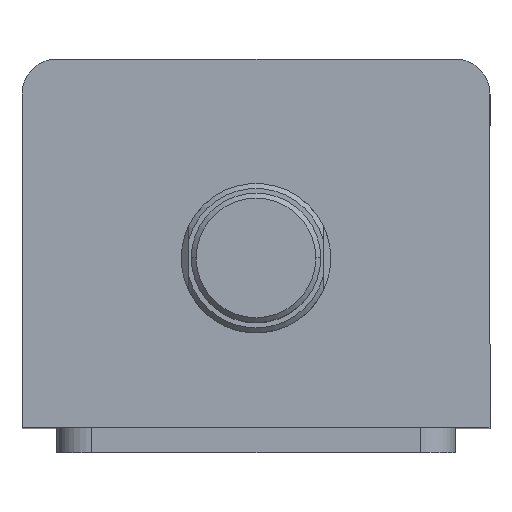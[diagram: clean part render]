
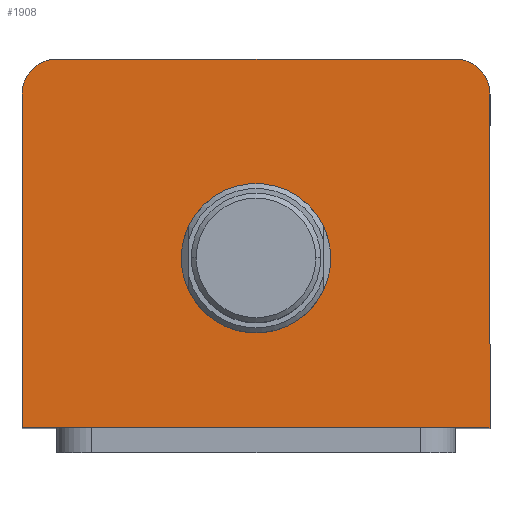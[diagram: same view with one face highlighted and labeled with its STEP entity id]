
A CAD part, top view. The second image highlights one B-rep face of the part: STEP entity #1908.
In plain terms, the highlighted planar face has unit normal (0, 0, 1).
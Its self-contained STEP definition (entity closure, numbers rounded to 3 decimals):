
#24 = LINE ( 'NONE', #2044, #26 ) ;
#26 = VECTOR ( 'NONE', #2053, 1000. ) ;
#67 = LINE ( 'NONE', #1948, #70 ) ;
#70 = VECTOR ( 'NONE', #1947, 1000. ) ;
#308 = VERTEX_POINT ( 'NONE', #1206 ) ;
#318 = VERTEX_POINT ( 'NONE', #1192 ) ;
#330 = VERTEX_POINT ( 'NONE', #1180 ) ;
#363 = VERTEX_POINT ( 'NONE', #1147 ) ;
#374 = VERTEX_POINT ( 'NONE', #1135 ) ;
#387 = VERTEX_POINT ( 'NONE', #1122 ) ;
#468 = FACE_OUTER_BOUND ( 'NONE', #1565, .T. ) ;
#473 = FACE_BOUND ( 'NONE', #1571, .T. ) ;
#503 = CIRCLE ( 'NONE', #2181, 7. ) ;
#522 = CIRCLE ( 'NONE', #2161, 7. ) ;
#527 = LINE ( 'NONE', #1910, #529 ) ;
#529 = VECTOR ( 'NONE', #1906, 1000. ) ;
#559 = LINE ( 'NONE', #2212, #561 ) ;
#561 = VECTOR ( 'NONE', #2220, 1000. ) ;
#564 = CIRCLE ( 'NONE', #1761, 15. ) ;
#568 = CIRCLE ( 'NONE', #1754, 15. ) ;
#772 = ORIENTED_EDGE ( 'NONE', *, *, #2069, .T. ) ;
#773 = ORIENTED_EDGE ( 'NONE', *, *, #2280, .T. ) ;
#774 = ORIENTED_EDGE ( 'NONE', *, *, #2309, .T. ) ;
#775 = ORIENTED_EDGE ( 'NONE', *, *, #2201, .T. ) ;
#776 = ORIENTED_EDGE ( 'NONE', *, *, #2169, .T. ) ;
#777 = ORIENTED_EDGE ( 'NONE', *, *, #2340, .T. ) ;
#778 = ORIENTED_EDGE ( 'NONE', *, *, #2293, .F. ) ;
#779 = ORIENTED_EDGE ( 'NONE', *, *, #2283, .F. ) ;
#948 = DIRECTION ( 'NONE',  ( 1., 0., 0. ) ) ;
#949 = DIRECTION ( 'NONE',  ( 0., 0., 1. ) ) ;
#951 = PLANE ( 'NONE',  #2251 ) ;
#960 = CARTESIAN_POINT ( 'NONE',  ( 0., 0., 155. ) ) ;
#1071 = CARTESIAN_POINT ( 'NONE',  ( -47., -37., 155. ) ) ;
#1072 = CARTESIAN_POINT ( 'NONE',  ( -40., 37., 155. ) ) ;
#1122 = CARTESIAN_POINT ( 'NONE',  ( 47., -37., 155. ) ) ;
#1135 = CARTESIAN_POINT ( 'NONE',  ( 47., 30., 155. ) ) ;
#1147 = CARTESIAN_POINT ( 'NONE',  ( 15., -3., 155. ) ) ;
#1180 = CARTESIAN_POINT ( 'NONE',  ( -15., -3., 155. ) ) ;
#1192 = CARTESIAN_POINT ( 'NONE',  ( 40., 37., 155. ) ) ;
#1206 = CARTESIAN_POINT ( 'NONE',  ( -47., 30., 155. ) ) ;
#1565 = EDGE_LOOP ( 'NONE', ( #777, #776, #775, #774, #773, #772 ) ) ;
#1571 = EDGE_LOOP ( 'NONE', ( #779, #778 ) ) ;
#1620 = VERTEX_POINT ( 'NONE', #1072 ) ;
#1621 = VERTEX_POINT ( 'NONE', #1071 ) ;
#1754 = AXIS2_PLACEMENT_3D ( 'NONE', #2122, #2120, #2119 ) ;
#1761 = AXIS2_PLACEMENT_3D ( 'NONE', #2185, #2184, #2182 ) ;
#1891 = DIRECTION ( 'NONE',  ( 1., 0., 0. ) ) ;
#1896 = DIRECTION ( 'NONE',  ( 0., 0., 1. ) ) ;
#1902 = CARTESIAN_POINT ( 'NONE',  ( -40., 30., 155. ) ) ;
#1906 = DIRECTION ( 'NONE',  ( 0., -1., 0. ) ) ;
#1908 = ADVANCED_FACE ( 'NONE', ( #473, #468 ), #951, .T. ) ;
#1910 = CARTESIAN_POINT ( 'NONE',  ( -47., 37., 155. ) ) ;
#1947 = DIRECTION ( 'NONE',  ( -1., 0., 0. ) ) ;
#1948 = CARTESIAN_POINT ( 'NONE',  ( -47., 37., 155. ) ) ;
#2044 = CARTESIAN_POINT ( 'NONE',  ( -47., -37., 155. ) ) ;
#2053 = DIRECTION ( 'NONE',  ( 1., 0., 0. ) ) ;
#2069 = EDGE_CURVE ( 'NONE', #374, #318, #503, .T. ) ;
#2088 = DIRECTION ( 'NONE',  ( 1., 0., 0. ) ) ;
#2089 = CARTESIAN_POINT ( 'NONE',  ( 40., 30., 155. ) ) ;
#2119 = DIRECTION ( 'NONE',  ( 1., 0., 0. ) ) ;
#2120 = DIRECTION ( 'NONE',  ( 0., 0., 1. ) ) ;
#2122 = CARTESIAN_POINT ( 'NONE',  ( 0., -3., 155. ) ) ;
#2161 = AXIS2_PLACEMENT_3D ( 'NONE', #1902, #1896, #1891 ) ;
#2169 = EDGE_CURVE ( 'NONE', #1620, #308, #522, .T. ) ;
#2181 = AXIS2_PLACEMENT_3D ( 'NONE', #2089, #2183, #2088 ) ;
#2182 = DIRECTION ( 'NONE',  ( 1., 0., 0. ) ) ;
#2183 = DIRECTION ( 'NONE',  ( 0., 0., 1. ) ) ;
#2184 = DIRECTION ( 'NONE',  ( 0., 0., 1. ) ) ;
#2185 = CARTESIAN_POINT ( 'NONE',  ( 0., -3., 155. ) ) ;
#2201 = EDGE_CURVE ( 'NONE', #308, #1621, #527, .T. ) ;
#2212 = CARTESIAN_POINT ( 'NONE',  ( 47., 37., 155. ) ) ;
#2220 = DIRECTION ( 'NONE',  ( 0., 1., 0. ) ) ;
#2251 = AXIS2_PLACEMENT_3D ( 'NONE', #960, #949, #948 ) ;
#2280 = EDGE_CURVE ( 'NONE', #387, #374, #559, .T. ) ;
#2283 = EDGE_CURVE ( 'NONE', #363, #330, #564, .T. ) ;
#2293 = EDGE_CURVE ( 'NONE', #330, #363, #568, .T. ) ;
#2309 = EDGE_CURVE ( 'NONE', #1621, #387, #24, .T. ) ;
#2340 = EDGE_CURVE ( 'NONE', #318, #1620, #67, .T. ) ;
